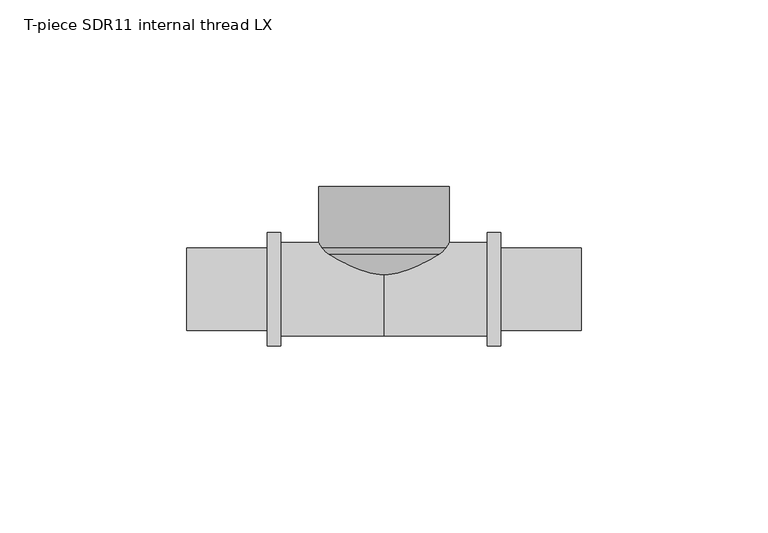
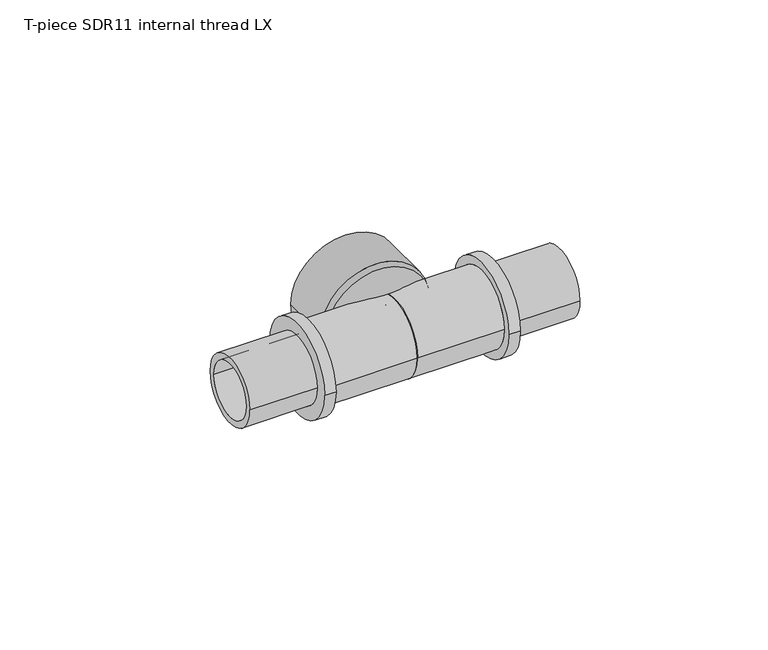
"""IFC4 building model written with IfcOpenShell, lengths in millimetres: pipe fitting geometry, T-piece SDR11 internal thread LX : T-piece LX SDR11 internal LX."""

from ifc_helpers import new_model, si_unit, point, frame, origin, place, context, project, spatial, polyline, circle_curve, ellipse_curve, trimmed, source, transform, mapped, element, save
from ifc_brep_helpers import plane_surface, cylinder_surface, revolved_surface, advanced_brep


def t_piece_sdr11_internal_thread_lx_568c0ff7(model_context):
    return source(origin(), model_context, "Body", "AdvancedBrep", [
        advanced_brep(
        [(12.6, 12.1, 0.0), (-12.6, 12.1, 0.0), (-12.6, 27.5, 0.0), (12.6, 27.5, 0.0), (0.5, 0.0, 0.0), (-0.5, 0.0, 0.0), (16.7683856, 9.3387391, 0.0), (-16.7683856, 9.3387391, 0.0), (-7.4296465, 0.0, 0.0), (7.4296465, 0.0, 0.0), (17.5, 11.1050126, 0.0), (-17.5, 11.1050126, 0.0), (17.5, 27.5, 0.0), (-17.5, 27.5, 0.0)],
        [
            (0, 1, circle_curve(frame((0.0, 12.1, 0.0), z_axis=(0.0, -1.0, 0.0), x_axis=(-1.0, 0.0, 0.0)), 12.6)),
            (1, 2),
            (2, 3, circle_curve(frame((0.0, 27.5, 0.0), z_axis=(0.0, 1.0, 0.0), x_axis=(-1.0, 0.0, 0.0)), 12.6)),
            (3, 0),
            (4, 5, circle_curve(frame((0.0, 0.0, 0.0), z_axis=(0.0, -1.0, 0.0), x_axis=(-1.0, 0.0, 0.0)), 0.5)),
            (5, 1),
            (0, 4),
            (6, 7, circle_curve(frame((0.0, 9.3387391, 0.0), z_axis=(0.0, -1.0, 0.0), x_axis=(-1.0, 0.0, 0.0)), 16.7683856)),
            (7, 8),
            (8, 9, circle_curve(frame((0.0, 0.0, 0.0), z_axis=(0.0, 1.0, 0.0), x_axis=(-1.0, 0.0, 0.0)), 7.4296465)),
            (9, 6),
            (10, 11, circle_curve(frame((0.0, 11.1050126, 0.0), z_axis=(0.0, -1.0, 0.0), x_axis=(-1.0, 0.0, 0.0)), 17.5)),
            (11, 7, circle_curve(frame((-12.6, 12.1, 0.0), z_axis=(0.0, 0.0, 1.0), x_axis=(0.0, 1.0, 0.0)), 5.0)),
            (6, 10, circle_curve(frame((12.6, 12.1, 0.0), z_axis=(0.0, 0.0, 1.0), x_axis=(0.0, 1.0, 0.0)), 5.0)),
            (12, 13, circle_curve(frame((0.0, 27.5, 0.0), z_axis=(0.0, -1.0, 0.0), x_axis=(-1.0, 0.0, 0.0)), 17.5)),
            (13, 11),
            (10, 12),
            (12, 13, circle_curve(frame((0.0, 27.5, 0.0), z_axis=(0.0, 1.0, 0.0), x_axis=(1.0, 0.0, 0.0)), 17.5)),
            (2, 3, circle_curve(frame((0.0, 27.5, 0.0), z_axis=(0.0, -1.0, 0.0), x_axis=(1.0, 0.0, 0.0)), 12.6)),
            (1, 0, circle_curve(frame((0.0, 12.1, 0.0), z_axis=(0.0, -1.0, 0.0), x_axis=(1.0, 0.0, 0.0)), 12.6)),
            (5, 4, circle_curve(frame((0.0, 0.0, 0.0), z_axis=(0.0, -1.0, 0.0), x_axis=(1.0, 0.0, 0.0)), 0.5)),
            (8, 9, circle_curve(frame((0.0, 0.0, 0.0), z_axis=(0.0, -1.0, 0.0), x_axis=(1.0, 0.0, 0.0)), 7.4296465)),
            (7, 6, circle_curve(frame((0.0, 9.3387391, 0.0), z_axis=(0.0, -1.0, 0.0), x_axis=(1.0, 0.0, 0.0)), 16.7683856)),
            (11, 10, circle_curve(frame((0.0, 11.1050126, 0.0), z_axis=(0.0, -1.0, 0.0), x_axis=(1.0, 0.0, 0.0)), 17.5)),
        ],
        [
            revolved_surface(polyline([(-12.6, 27.5, 0.0), (-12.6, 12.1, 0.0)]), (0.0, 0.0, 0.0), (0.0, 1.0, 0.0)),
            revolved_surface(polyline([(-12.6, 12.1, 0.0), (-0.5, 0.0, 0.0)]), (0.0, 0.0, 0.0), (0.0, 1.0, 0.0)),
            revolved_surface(polyline([(-7.4296465, 0.0, 0.0), (-16.7683856, 9.3387391, 0.0)]), (0.0, 0.0, 0.0), (0.0, 1.0, 0.0)),
            revolved_surface(trimmed(ellipse_curve(frame((-12.6, 12.1, 0.0), z_axis=(0.0, 0.0, -1.0), x_axis=(0.0, 1.0, 0.0)), 5.0, 5.0), [point((-16.7683856, 9.3387391, 0.0))], [point((-17.5, 11.1050126, 0.0))], True, "CARTESIAN"), (0.0, 0.0, 0.0), (0.0, 1.0, 0.0)),
            cylinder_surface(frame((0.0, 0.0, 0.0), z_axis=(0.0, 1.0, 0.0), x_axis=(-1.0, 0.0, 0.0)), 17.5),
            plane_surface(frame((0.0, 27.5, 0.0), z_axis=(0.0, 1.0, 0.0), x_axis=(1.0, 0.0, 0.0))),
            revolved_surface(polyline([(12.6, 27.5, 0.0), (12.6, 12.1, 0.0)]), (0.0, 0.0, 0.0), (0.0, 1.0, 0.0)),
            revolved_surface(polyline([(12.6, 12.1, 0.0), (0.5, 0.0, 0.0)]), (0.0, 0.0, 0.0), (0.0, 1.0, 0.0)),
            plane_surface(frame((0.0, 0.0, 0.0), z_axis=(0.0, -1.0, 0.0), x_axis=(1.0, 0.0, 0.0))),
            revolved_surface(polyline([(7.4296465, 0.0, 0.0), (16.7683856, 9.3387391, 0.0)]), (0.0, 0.0, 0.0), (0.0, 1.0, 0.0)),
            revolved_surface(trimmed(ellipse_curve(frame((12.6, 12.1, 0.0), z_axis=(0.0, 0.0, 1.0), x_axis=(0.0, 1.0, 0.0)), 5.0, 5.0), [point((16.7683856, 9.3387391, 0.0))], [point((17.5, 11.1050126, 0.0))], True, "CARTESIAN"), (0.0, 0.0, 0.0), (0.0, 1.0, 0.0)),
            cylinder_surface(frame((0.0, 0.0, 0.0), z_axis=(0.0, 1.0, 0.0), x_axis=(1.0, 0.0, 0.0)), 17.5),
        ],
        [
            (0, [[1, 2, 3, 4]]),
            (1, [[5, 6, -1, 7]]),
            (2, [[8, 9, 10, 11]]),
            (3, [[12, 13, -8, 14]]),
            (4, [[15, 16, -12, 17]]),
            (5, [[18, -15], [19, -3]]),
            (6, [[20, -4, -19, -2]]),
            (7, [[21, -7, -20, -6]]),
            (8, [[22, -10], [-21, -5]]),
            (9, [[23, -11, -22, -9]]),
            (10, [[24, -14, -23, -13]]),
            (11, [[-18, -17, -24, -16]]),
        ],
    ),
        advanced_brep(
        [(31.3, 15.25, 0.0), (31.3, -15.25, 0.0), (27.7, -15.25, 0.0), (27.7, 15.25, 0.0), (52.8, 11.0, 0.0), (52.8, -11.0, 0.0), (31.3, -11.0, 0.0), (31.3, 11.0, 0.0), (0.0, 8.9, 0.0), (0.0, -8.9, 0.0), (52.8, -8.9, 0.0), (52.8, 8.9, 0.0), (27.7, 12.5, 0.0), (27.7, -12.5, 0.0), (0.0, -12.5, 0.0), (0.0, 12.5, 0.0)],
        [
            (0, 1, circle_curve(frame((31.3, 0.0, 0.0), z_axis=(-1.0, 0.0, 0.0), x_axis=(0.0, -1.0, 0.0)), 15.25)),
            (1, 2),
            (2, 3, circle_curve(frame((27.7, 0.0, 0.0), z_axis=(1.0, 0.0, 0.0), x_axis=(0.0, -1.0, 0.0)), 15.25)),
            (3, 0),
            (4, 5, circle_curve(frame((52.8, 0.0, 0.0), z_axis=(-1.0, 0.0, 0.0), x_axis=(0.0, -1.0, 0.0)), 11.0)),
            (5, 6),
            (6, 7, circle_curve(frame((31.3, 0.0, 0.0), z_axis=(1.0, 0.0, 0.0), x_axis=(0.0, -1.0, 0.0)), 11.0)),
            (7, 4),
            (8, 9, circle_curve(frame((0.0, 0.0, 0.0), z_axis=(-1.0, 0.0, 0.0), x_axis=(0.0, -1.0, 0.0)), 8.9)),
            (9, 10),
            (10, 11, circle_curve(frame((52.8, 0.0, 0.0), z_axis=(1.0, 0.0, 0.0), x_axis=(0.0, -1.0, 0.0)), 8.9)),
            (11, 8),
            (12, 13, circle_curve(frame((27.7, 0.0, 0.0), z_axis=(-1.0, 0.0, 0.0), x_axis=(0.0, -1.0, 0.0)), 12.5)),
            (13, 14),
            (14, 15, circle_curve(frame((0.0, 0.0, 0.0), z_axis=(1.0, 0.0, 0.0), x_axis=(0.0, -1.0, 0.0)), 12.5)),
            (15, 12),
            (1, 0, circle_curve(frame((31.3, 0.0, 0.0), z_axis=(-1.0, 0.0, 0.0), x_axis=(0.0, 1.0, 0.0)), 15.25)),
            (3, 2, circle_curve(frame((27.7, 0.0, 0.0), z_axis=(1.0, 0.0, 0.0), x_axis=(0.0, 1.0, 0.0)), 15.25)),
            (6, 7, circle_curve(frame((31.3, 0.0, 0.0), z_axis=(-1.0, 0.0, 0.0), x_axis=(0.0, 1.0, 0.0)), 11.0)),
            (5, 4, circle_curve(frame((52.8, 0.0, 0.0), z_axis=(-1.0, 0.0, 0.0), x_axis=(0.0, 1.0, 0.0)), 11.0)),
            (10, 11, circle_curve(frame((52.8, 0.0, 0.0), z_axis=(-1.0, 0.0, 0.0), x_axis=(0.0, 1.0, 0.0)), 8.9)),
            (9, 8, circle_curve(frame((0.0, 0.0, 0.0), z_axis=(-1.0, 0.0, 0.0), x_axis=(0.0, 1.0, 0.0)), 8.9)),
            (14, 15, circle_curve(frame((0.0, 0.0, 0.0), z_axis=(-1.0, 0.0, 0.0), x_axis=(0.0, 1.0, 0.0)), 12.5)),
            (13, 12, circle_curve(frame((27.7, 0.0, 0.0), z_axis=(-1.0, 0.0, 0.0), x_axis=(0.0, 1.0, 0.0)), 12.5)),
        ],
        [
            cylinder_surface(frame((0.0, 0.0, 0.0), z_axis=(1.0, 0.0, 0.0), x_axis=(0.0, -1.0, 0.0)), 15.25),
            cylinder_surface(frame((0.0, 0.0, 0.0), z_axis=(1.0, 0.0, 0.0), x_axis=(0.0, -1.0, 0.0)), 11.0),
            revolved_surface(polyline([(52.8, -8.9, 0.0), (0.0, -8.9, 0.0)]), (0.0, 0.0, 0.0), (1.0, 0.0, 0.0)),
            cylinder_surface(frame((0.0, 0.0, 0.0), z_axis=(1.0, 0.0, 0.0), x_axis=(0.0, -1.0, 0.0)), 12.5),
            cylinder_surface(frame((0.0, 0.0, 0.0), z_axis=(1.0, 0.0, 0.0), x_axis=(0.0, 1.0, 0.0)), 15.25),
            plane_surface(frame((31.3, 0.0, 0.0), z_axis=(1.0, 0.0, 0.0), x_axis=(0.0, 1.0, 0.0))),
            cylinder_surface(frame((0.0, 0.0, 0.0), z_axis=(1.0, 0.0, 0.0), x_axis=(0.0, 1.0, 0.0)), 11.0),
            plane_surface(frame((52.8, 0.0, 0.0), z_axis=(1.0, 0.0, 0.0), x_axis=(0.0, 1.0, 0.0))),
            revolved_surface(polyline([(52.8, 8.9, 0.0), (0.0, 8.9, 0.0)]), (0.0, 0.0, 0.0), (1.0, 0.0, 0.0)),
            plane_surface(frame((0.0, 0.0, 0.0), z_axis=(-1.0, 0.0, 0.0), x_axis=(0.0, 1.0, 0.0))),
            cylinder_surface(frame((0.0, 0.0, 0.0), z_axis=(1.0, 0.0, 0.0), x_axis=(0.0, 1.0, 0.0)), 12.5),
            plane_surface(frame((27.7, 0.0, 0.0), z_axis=(-1.0, 0.0, 0.0), x_axis=(0.0, 1.0, 0.0))),
        ],
        [
            (0, [[1, 2, 3, 4]]),
            (1, [[5, 6, 7, 8]]),
            (2, [[9, 10, 11, 12]]),
            (3, [[13, 14, 15, 16]]),
            (4, [[17, -4, 18, -2]]),
            (5, [[-17, -1], [19, -7]]),
            (6, [[20, -8, -19, -6]]),
            (7, [[-20, -5], [21, -11]]),
            (8, [[22, -12, -21, -10]]),
            (9, [[23, -15], [-22, -9]]),
            (10, [[24, -16, -23, -14]]),
            (11, [[-18, -3], [-24, -13]]),
        ],
    ),
        advanced_brep(
        [(0.0, 12.5, 0.0), (0.0, -12.5, 0.0), (-27.7, -12.5, 0.0), (-27.7, 12.5, 0.0), (-52.8, 8.9, 0.0), (-52.8, -8.9, 0.0), (0.0, -8.9, 0.0), (0.0, 8.9, 0.0), (-31.3, 11.0, 0.0), (-31.3, -11.0, 0.0), (-52.8, -11.0, 0.0), (-52.8, 11.0, 0.0), (-27.7, 15.25, 0.0), (-27.7, -15.25, 0.0), (-31.3, -15.25, 0.0), (-31.3, 15.25, 0.0)],
        [
            (0, 1, circle_curve(frame((0.0, 0.0, 0.0), z_axis=(-1.0, 0.0, 0.0), x_axis=(0.0, -1.0, 0.0)), 12.5)),
            (1, 2),
            (2, 3, circle_curve(frame((-27.7, 0.0, 0.0), z_axis=(1.0, 0.0, 0.0), x_axis=(0.0, -1.0, 0.0)), 12.5)),
            (3, 0),
            (4, 5, circle_curve(frame((-52.8, 0.0, 0.0), z_axis=(-1.0, 0.0, 0.0), x_axis=(0.0, -1.0, 0.0)), 8.9)),
            (5, 6),
            (6, 7, circle_curve(frame((0.0, 0.0, 0.0), z_axis=(1.0, 0.0, 0.0), x_axis=(0.0, -1.0, 0.0)), 8.9)),
            (7, 4),
            (8, 9, circle_curve(frame((-31.3, 0.0, 0.0), z_axis=(-1.0, 0.0, 0.0), x_axis=(0.0, -1.0, 0.0)), 11.0)),
            (9, 10),
            (10, 11, circle_curve(frame((-52.8, 0.0, 0.0), z_axis=(1.0, 0.0, 0.0), x_axis=(0.0, -1.0, 0.0)), 11.0)),
            (11, 8),
            (12, 13, circle_curve(frame((-27.7, 0.0, 0.0), z_axis=(-1.0, 0.0, 0.0), x_axis=(0.0, -1.0, 0.0)), 15.25)),
            (13, 14),
            (14, 15, circle_curve(frame((-31.3, 0.0, 0.0), z_axis=(1.0, 0.0, 0.0), x_axis=(0.0, -1.0, 0.0)), 15.25)),
            (15, 12),
            (12, 13, circle_curve(frame((-27.7, 0.0, 0.0), z_axis=(1.0, 0.0, 0.0), x_axis=(0.0, 1.0, 0.0)), 15.25)),
            (2, 3, circle_curve(frame((-27.7, 0.0, 0.0), z_axis=(-1.0, 0.0, 0.0), x_axis=(0.0, 1.0, 0.0)), 12.5)),
            (1, 0, circle_curve(frame((0.0, 0.0, 0.0), z_axis=(-1.0, 0.0, 0.0), x_axis=(0.0, 1.0, 0.0)), 12.5)),
            (6, 7, circle_curve(frame((0.0, 0.0, 0.0), z_axis=(-1.0, 0.0, 0.0), x_axis=(0.0, 1.0, 0.0)), 8.9)),
            (5, 4, circle_curve(frame((-52.8, 0.0, 0.0), z_axis=(-1.0, 0.0, 0.0), x_axis=(0.0, 1.0, 0.0)), 8.9)),
            (10, 11, circle_curve(frame((-52.8, 0.0, 0.0), z_axis=(-1.0, 0.0, 0.0), x_axis=(0.0, 1.0, 0.0)), 11.0)),
            (9, 8, circle_curve(frame((-31.3, 0.0, 0.0), z_axis=(-1.0, 0.0, 0.0), x_axis=(0.0, 1.0, 0.0)), 11.0)),
            (14, 15, circle_curve(frame((-31.3, 0.0, 0.0), z_axis=(-1.0, 0.0, 0.0), x_axis=(0.0, 1.0, 0.0)), 15.25)),
        ],
        [
            cylinder_surface(frame((0.0, 0.0, 0.0), z_axis=(1.0, 0.0, 0.0), x_axis=(0.0, -1.0, 0.0)), 12.5),
            revolved_surface(polyline([(0.0, -8.9, 0.0), (-52.8, -8.9, 0.0)]), (0.0, 0.0, 0.0), (1.0, 0.0, 0.0)),
            cylinder_surface(frame((0.0, 0.0, 0.0), z_axis=(1.0, 0.0, 0.0), x_axis=(0.0, -1.0, 0.0)), 11.0),
            cylinder_surface(frame((0.0, 0.0, 0.0), z_axis=(1.0, 0.0, 0.0), x_axis=(0.0, -1.0, 0.0)), 15.25),
            plane_surface(frame((-27.7, 0.0, 0.0), z_axis=(1.0, 0.0, 0.0), x_axis=(0.0, 1.0, 0.0))),
            cylinder_surface(frame((0.0, 0.0, 0.0), z_axis=(1.0, 0.0, 0.0), x_axis=(0.0, 1.0, 0.0)), 12.5),
            plane_surface(frame((0.0, 0.0, 0.0), z_axis=(1.0, 0.0, 0.0), x_axis=(0.0, 1.0, 0.0))),
            revolved_surface(polyline([(0.0, 8.9, 0.0), (-52.8, 8.9, 0.0)]), (0.0, 0.0, 0.0), (1.0, 0.0, 0.0)),
            plane_surface(frame((-52.8, 0.0, 0.0), z_axis=(-1.0, 0.0, 0.0), x_axis=(0.0, 1.0, 0.0))),
            cylinder_surface(frame((0.0, 0.0, 0.0), z_axis=(1.0, 0.0, 0.0), x_axis=(0.0, 1.0, 0.0)), 11.0),
            plane_surface(frame((-31.3, 0.0, 0.0), z_axis=(-1.0, 0.0, 0.0), x_axis=(0.0, 1.0, 0.0))),
            cylinder_surface(frame((0.0, 0.0, 0.0), z_axis=(1.0, 0.0, 0.0), x_axis=(0.0, 1.0, 0.0)), 15.25),
        ],
        [
            (0, [[1, 2, 3, 4]]),
            (1, [[5, 6, 7, 8]]),
            (2, [[9, 10, 11, 12]]),
            (3, [[13, 14, 15, 16]]),
            (4, [[17, -13], [18, -3]]),
            (5, [[19, -4, -18, -2]]),
            (6, [[-19, -1], [20, -7]]),
            (7, [[21, -8, -20, -6]]),
            (8, [[22, -11], [-21, -5]]),
            (9, [[23, -12, -22, -10]]),
            (10, [[24, -15], [-23, -9]]),
            (11, [[-17, -16, -24, -14]]),
        ],
    ),
    ])


if __name__ == "__main__":
    model = new_model("IFC4")
    model_context = context("Model", 3, world=origin())
    ifc_project = project(units=[si_unit("LENGTHUNIT", "METRE", prefix="MILLI")], contexts=[model_context])
    site = spatial("IfcSite", under=ifc_project)
    building = spatial("IfcBuilding", under=site)
    placement = place(None, origin())
    t_piece_sdr11_internal_thread_lx_shape = t_piece_sdr11_internal_thread_lx_568c0ff7(model_context)
    element("IfcPipeFitting", 1, ObjectType="T-piece SDR11 internal thread LX : T-piece LX SDR11 internal LX", at=placement, inside=building, context=model_context, shape_type="MappedRepresentation", body=[
        mapped(t_piece_sdr11_internal_thread_lx_shape, transform((0.0, 0.0, 0.0), x_axis=(1.0, 0.0, 0.0), y_axis=(0.0, 1.0, 0.0), z_axis=(0.0, 0.0, 1.0))),
    ])
    save(model, "model.ifc")
